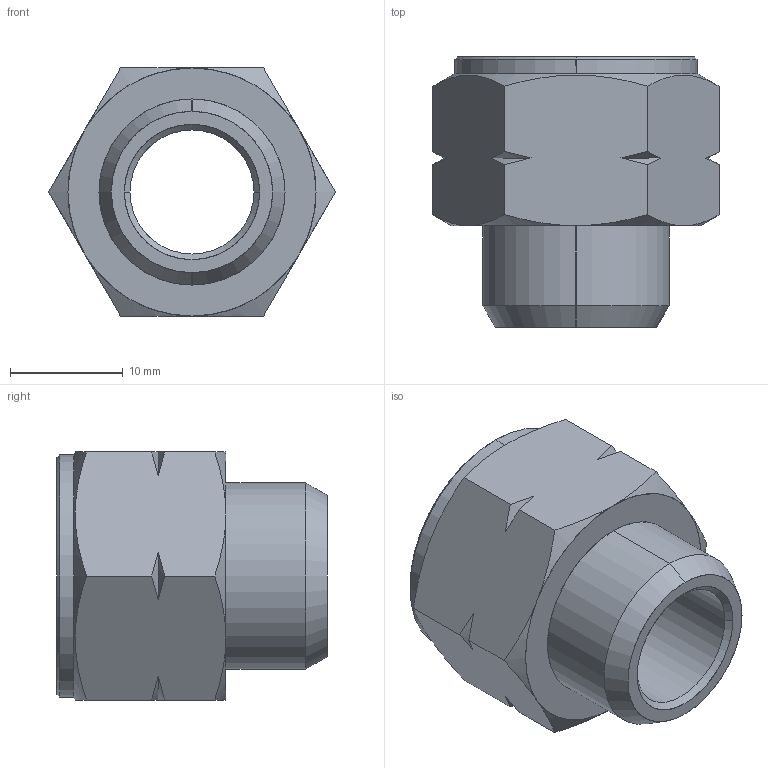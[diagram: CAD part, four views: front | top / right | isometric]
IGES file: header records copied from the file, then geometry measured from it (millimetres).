
Start section: SolidWorks IGES file using analytic representation for surfaces
Global section: file name: K:\Disegni Esecutivi\ALPHA TECHNOLOGIES\Accessori\82242\82242_IGES\822420001AB00A.IGS; native system: SolidWorks 2015; preprocessor: SolidWorks 2015; author: cad06; date: 150708.142447; units: millimetre
Bounding box: 25.4 x 24 x 22 mm (x, y, z)
Surface area: 3117.6 mm2 (no closed solid volume)
Topology: 0 solids, 0 shells, 48 faces, 632 edges, 632 vertices
Faces by surface type: revolution 38, bspline 10
